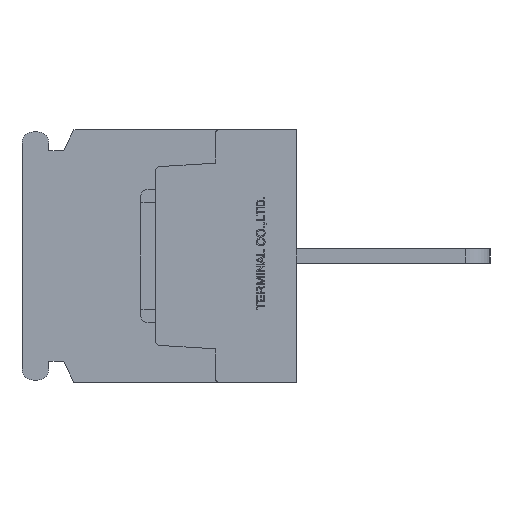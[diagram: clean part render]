
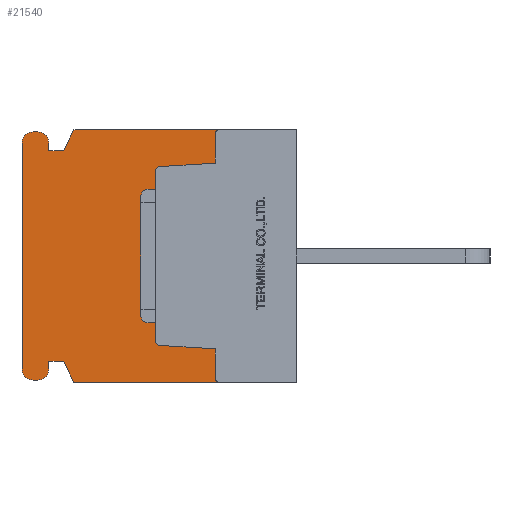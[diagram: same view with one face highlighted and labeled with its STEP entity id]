
A CAD part, left-side view. The second image highlights one B-rep face of the part: STEP entity #21540.
In plain terms, the highlighted planar face has unit normal (-1, 0, 0).
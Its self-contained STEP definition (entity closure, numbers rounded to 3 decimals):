
#1268=CIRCLE('',#23060,0.3);
#1270=CIRCLE('',#23064,0.3);
#1272=CIRCLE('',#23069,0.3);
#1274=CIRCLE('',#23072,0.3);
#1283=CIRCLE('',#23229,0.75);
#1284=CIRCLE('',#23230,0.75);
#1285=CIRCLE('',#23231,0.75);
#1286=CIRCLE('',#23232,0.75);
#2446=VERTEX_POINT('',#32120);
#2447=VERTEX_POINT('',#32122);
#2479=VERTEX_POINT('',#32193);
#2480=VERTEX_POINT('',#32195);
#2911=VERTEX_POINT('',#33718);
#2912=VERTEX_POINT('',#33719);
#2915=VERTEX_POINT('',#33727);
#2929=VERTEX_POINT('',#33757);
#2931=VERTEX_POINT('',#33763);
#2933=VERTEX_POINT('',#33769);
#2935=VERTEX_POINT('',#33775);
#2937=VERTEX_POINT('',#33784);
#3284=VERTEX_POINT('',#35326);
#3285=VERTEX_POINT('',#35328);
#3286=VERTEX_POINT('',#35330);
#3287=VERTEX_POINT('',#35332);
#3288=VERTEX_POINT('',#35334);
#3289=VERTEX_POINT('',#35336);
#3290=VERTEX_POINT('',#35338);
#3291=VERTEX_POINT('',#35340);
#3292=VERTEX_POINT('',#35342);
#3293=VERTEX_POINT('',#35344);
#3294=VERTEX_POINT('',#35346);
#3295=VERTEX_POINT('',#35348);
#4639=VECTOR('',#25837,1.);
#4676=VECTOR('',#25878,1.);
#5103=VECTOR('',#27112,1.);
#5120=VECTOR('',#27136,1.);
#5124=VECTOR('',#27147,1.);
#5127=VECTOR('',#27151,1.);
#5131=VECTOR('',#27168,1.);
#5544=VECTOR('',#27746,1.);
#5545=VECTOR('',#27747,1.);
#5546=VECTOR('',#27748,1.);
#5547=VECTOR('',#27751,1.);
#5548=VECTOR('',#27754,1.);
#5549=VECTOR('',#27757,1.);
#5550=VECTOR('',#27760,1.);
#5551=VECTOR('',#27761,1.);
#5552=VECTOR('',#27762,1.);
#6883=LINE('',#32121,#4639);
#6920=LINE('',#32194,#4676);
#7347=LINE('',#33717,#5103);
#7364=LINE('',#33756,#5120);
#7368=LINE('',#33768,#5124);
#7371=LINE('',#33774,#5127);
#7375=LINE('',#33789,#5131);
#7788=LINE('',#35325,#5544);
#7789=LINE('',#35327,#5545);
#7790=LINE('',#35329,#5546);
#7791=LINE('',#35333,#5547);
#7792=LINE('',#35337,#5548);
#7793=LINE('',#35341,#5549);
#7794=LINE('',#35345,#5550);
#7795=LINE('',#35347,#5551);
#7796=LINE('',#35349,#5552);
#9606=EDGE_CURVE('',#2446,#2447,#6883,.T.);
#9644=EDGE_CURVE('',#2479,#2480,#6920,.T.);
#10320=EDGE_CURVE('',#2911,#2912,#7347,.T.);
#10324=EDGE_CURVE('',#2915,#2911,#1268,.T.);
#10339=EDGE_CURVE('',#2929,#2915,#7364,.T.);
#10342=EDGE_CURVE('',#2931,#2929,#1270,.T.);
#10345=EDGE_CURVE('',#2933,#2931,#7368,.T.);
#10348=EDGE_CURVE('',#2935,#2933,#7371,.T.);
#10351=EDGE_CURVE('',#2447,#2935,#1272,.T.);
#10353=EDGE_CURVE('',#2937,#2479,#1274,.T.);
#10356=EDGE_CURVE('',#2912,#2937,#7375,.T.);
#10880=EDGE_CURVE('',#3284,#2446,#7788,.T.);
#10881=EDGE_CURVE('',#3285,#3284,#7789,.T.);
#10882=EDGE_CURVE('',#3286,#3285,#7790,.T.);
#10883=EDGE_CURVE('',#3287,#3286,#1283,.T.);
#10884=EDGE_CURVE('',#3288,#3287,#7791,.T.);
#10885=EDGE_CURVE('',#3289,#3288,#1284,.T.);
#10886=EDGE_CURVE('',#3290,#3289,#7792,.T.);
#10887=EDGE_CURVE('',#3291,#3290,#1285,.T.);
#10888=EDGE_CURVE('',#3292,#3291,#7793,.T.);
#10889=EDGE_CURVE('',#3293,#3292,#1286,.T.);
#10890=EDGE_CURVE('',#3294,#3293,#7794,.T.);
#10891=EDGE_CURVE('',#3295,#3294,#7795,.T.);
#10892=EDGE_CURVE('',#2480,#3295,#7796,.T.);
#16950=ORIENTED_EDGE('',*,*,#10351,.F.);
#16951=ORIENTED_EDGE('',*,*,#9606,.F.);
#16952=ORIENTED_EDGE('',*,*,#10880,.F.);
#16953=ORIENTED_EDGE('',*,*,#10881,.F.);
#16954=ORIENTED_EDGE('',*,*,#10882,.F.);
#16955=ORIENTED_EDGE('',*,*,#10883,.F.);
#16956=ORIENTED_EDGE('',*,*,#10884,.F.);
#16957=ORIENTED_EDGE('',*,*,#10885,.F.);
#16958=ORIENTED_EDGE('',*,*,#10886,.F.);
#16959=ORIENTED_EDGE('',*,*,#10887,.F.);
#16960=ORIENTED_EDGE('',*,*,#10888,.F.);
#16961=ORIENTED_EDGE('',*,*,#10889,.F.);
#16962=ORIENTED_EDGE('',*,*,#10890,.F.);
#16963=ORIENTED_EDGE('',*,*,#10891,.F.);
#16964=ORIENTED_EDGE('',*,*,#10892,.F.);
#16965=ORIENTED_EDGE('',*,*,#9644,.F.);
#16966=ORIENTED_EDGE('',*,*,#10353,.F.);
#16967=ORIENTED_EDGE('',*,*,#10356,.F.);
#16968=ORIENTED_EDGE('',*,*,#10320,.F.);
#16969=ORIENTED_EDGE('',*,*,#10324,.F.);
#16970=ORIENTED_EDGE('',*,*,#10339,.F.);
#16971=ORIENTED_EDGE('',*,*,#10342,.F.);
#16972=ORIENTED_EDGE('',*,*,#10345,.F.);
#16973=ORIENTED_EDGE('',*,*,#10348,.F.);
#18879=EDGE_LOOP('',(#16950,#16951,#16952,#16953,#16954,#16955,#16956,#16957,
#16958,#16959,#16960,#16961,#16962,#16963,#16964,#16965,#16966,#16967,#16968,
#16969,#16970,#16971,#16972,#16973));
#20289=FACE_BOUND('',#18879,.T.);
#21540=ADVANCED_FACE('',(#20289),#36654,.F.);
#23060=AXIS2_PLACEMENT_3D('',#33726,#27118,#27119);
#23064=AXIS2_PLACEMENT_3D('',#33762,#27141,#27142);
#23069=AXIS2_PLACEMENT_3D('',#33780,#27156,#27157);
#23072=AXIS2_PLACEMENT_3D('',#33783,#27162,#27163);
#23228=AXIS2_PLACEMENT_3D('',#35324,#27745,$);
#23229=AXIS2_PLACEMENT_3D('',#35331,#27749,#27750);
#23230=AXIS2_PLACEMENT_3D('',#35335,#27752,#27753);
#23231=AXIS2_PLACEMENT_3D('',#35339,#27755,#27756);
#23232=AXIS2_PLACEMENT_3D('',#35343,#27758,#27759);
#25837=DIRECTION('',(0.,-1.,0.));
#25878=DIRECTION('',(0.,1.,0.));
#27112=DIRECTION('',(0.,-0.998,-0.062));
#27118=DIRECTION('',(-1.,0.,0.));
#27119=DIRECTION('',(0.,0.,-0.3));
#27136=DIRECTION('',(0.,0.,-1.));
#27141=DIRECTION('',(-1.,0.,0.));
#27142=DIRECTION('',(0.,0.,-0.3));
#27147=DIRECTION('',(0.,0.998,-0.062));
#27151=DIRECTION('',(0.,0.,-1.));
#27156=DIRECTION('',(-1.,0.,0.));
#27157=DIRECTION('',(0.,0.,-0.3));
#27162=DIRECTION('',(-1.,0.,0.));
#27163=DIRECTION('',(0.,0.,-0.3));
#27168=DIRECTION('',(0.,0.,-1.));
#27745=DIRECTION('',(1.,0.,0.));
#27746=DIRECTION('',(0.,-0.447,0.894));
#27747=DIRECTION('',(0.,-1.,0.));
#27748=DIRECTION('',(0.,0.,-1.));
#27749=DIRECTION('',(1.,0.,0.));
#27750=DIRECTION('',(0.,0.,-0.75));
#27751=DIRECTION('',(0.,-1.,0.));
#27752=DIRECTION('',(1.,0.,0.));
#27753=DIRECTION('',(0.,0.,-0.75));
#27754=DIRECTION('',(0.,0.,1.));
#27755=DIRECTION('',(1.,0.,0.));
#27756=DIRECTION('',(0.,0.,-0.75));
#27757=DIRECTION('',(0.,1.,0.));
#27758=DIRECTION('',(1.,0.,0.));
#27759=DIRECTION('',(0.,0.,-0.75));
#27760=DIRECTION('',(0.,0.,-1.));
#27761=DIRECTION('',(0.,1.,0.));
#27762=DIRECTION('',(0.,0.447,0.894));
#32120=CARTESIAN_POINT('',(0.,15.,8.5));
#32121=CARTESIAN_POINT('',(0.,15.,8.5));
#32122=CARTESIAN_POINT('',(0.,5.2,8.5));
#32193=CARTESIAN_POINT('',(0.,5.2,-8.5));
#32194=CARTESIAN_POINT('',(0.,0.,-8.5));
#32195=CARTESIAN_POINT('',(0.,15.,-8.5));
#33717=CARTESIAN_POINT('',(0.,9.219,-6.018));
#33718=CARTESIAN_POINT('',(0.,9.219,-6.018));
#33719=CARTESIAN_POINT('',(0.,5.5,-6.25));
#33726=CARTESIAN_POINT('',(0.,9.2,-5.718));
#33727=CARTESIAN_POINT('',(0.,9.5,-5.718));
#33756=CARTESIAN_POINT('',(0.,9.5,5.718));
#33757=CARTESIAN_POINT('',(0.,9.5,5.718));
#33762=CARTESIAN_POINT('',(0.,9.2,5.718));
#33763=CARTESIAN_POINT('',(0.,9.219,6.018));
#33768=CARTESIAN_POINT('',(0.,5.5,6.25));
#33769=CARTESIAN_POINT('',(0.,5.5,6.25));
#33774=CARTESIAN_POINT('',(0.,5.5,8.2));
#33775=CARTESIAN_POINT('',(0.,5.5,8.2));
#33780=CARTESIAN_POINT('',(0.,5.2,8.2));
#33783=CARTESIAN_POINT('',(0.,5.2,-8.2));
#33784=CARTESIAN_POINT('',(0.,5.5,-8.2));
#33789=CARTESIAN_POINT('',(0.,5.5,-6.25));
#35324=CARTESIAN_POINT('',(0.,9.463,0.));
#35325=CARTESIAN_POINT('',(0.,15.7,7.1));
#35326=CARTESIAN_POINT('',(0.,15.7,7.1));
#35327=CARTESIAN_POINT('',(0.,16.7,7.1));
#35328=CARTESIAN_POINT('',(0.,16.7,7.1));
#35329=CARTESIAN_POINT('',(0.,16.7,7.6));
#35330=CARTESIAN_POINT('',(0.,16.7,7.6));
#35331=CARTESIAN_POINT('',(0.,17.45,7.6));
#35332=CARTESIAN_POINT('',(0.,17.45,8.35));
#35333=CARTESIAN_POINT('',(0.,17.75,8.35));
#35334=CARTESIAN_POINT('',(0.,17.75,8.35));
#35335=CARTESIAN_POINT('',(0.,17.75,7.6));
#35336=CARTESIAN_POINT('',(0.,18.5,7.6));
#35337=CARTESIAN_POINT('',(0.,18.5,-7.6));
#35338=CARTESIAN_POINT('',(0.,18.5,-7.6));
#35339=CARTESIAN_POINT('',(0.,17.75,-7.6));
#35340=CARTESIAN_POINT('',(0.,17.75,-8.35));
#35341=CARTESIAN_POINT('',(0.,17.45,-8.35));
#35342=CARTESIAN_POINT('',(0.,17.45,-8.35));
#35343=CARTESIAN_POINT('',(0.,17.45,-7.6));
#35344=CARTESIAN_POINT('',(0.,16.7,-7.6));
#35345=CARTESIAN_POINT('',(0.,16.7,-7.1));
#35346=CARTESIAN_POINT('',(0.,16.7,-7.1));
#35347=CARTESIAN_POINT('',(0.,15.7,-7.1));
#35348=CARTESIAN_POINT('',(0.,15.7,-7.1));
#35349=CARTESIAN_POINT('',(0.,15.,-8.5));
#36654=PLANE('',#23228);
